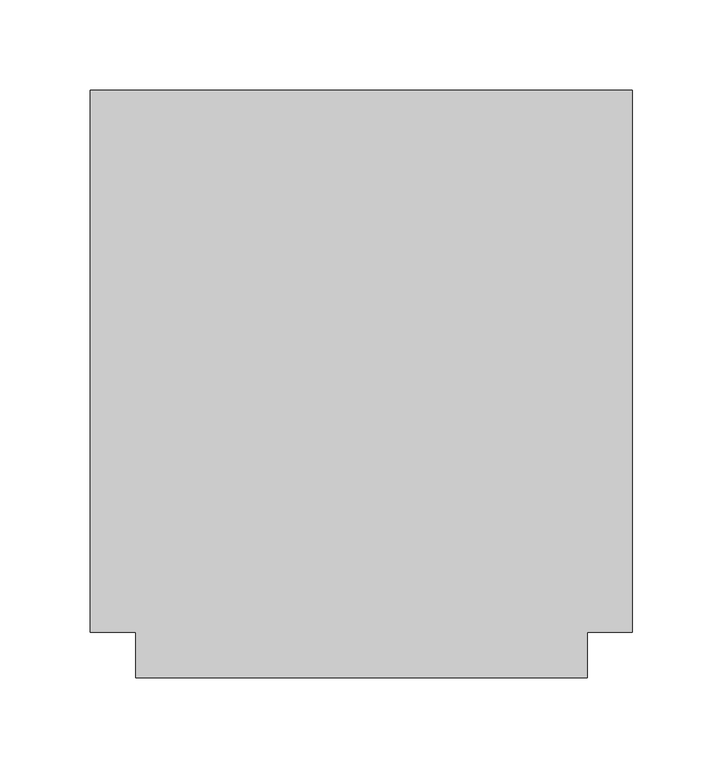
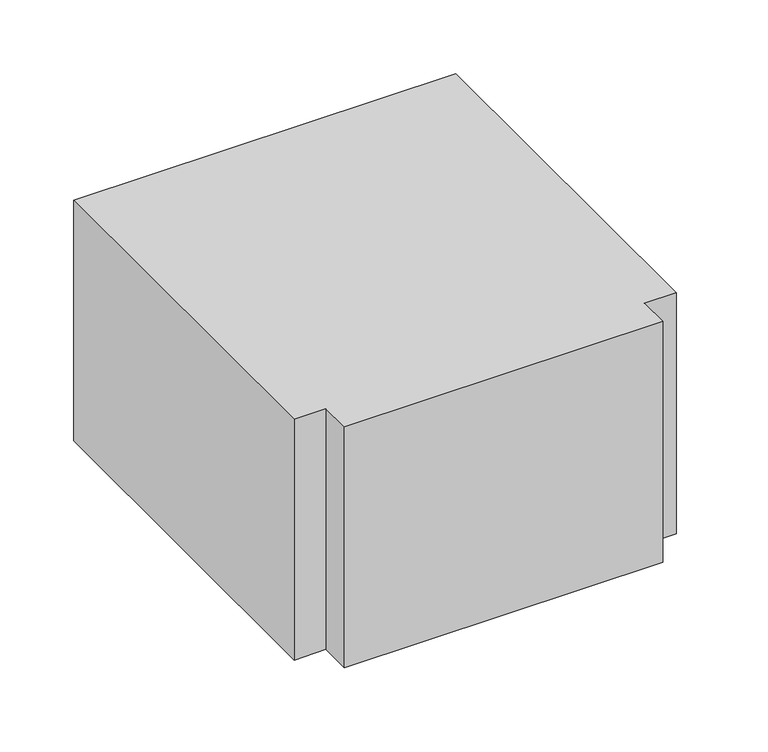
"""IFC4 building model written with IfcOpenShell, lengths in millimetres: duct fitting geometry, M_Te rectangular : Estándar."""

import ifcopenshell
import ifcopenshell.guid

model = None  # the IFC model being written
_history = None  # IfcOwnerHistory: only IFC2X3 demands one
_inside = {}  # id of a spatial element -> (the spatial element, [elements in it])
_under = {}  # id of a project, library or spatial element -> (it, [spatial elements below it])
_declared = {}  # id of a project -> (the project, [libraries it declares])
_typed = {}  # id of a type object -> (the type object, [elements of that type])
_made_of = {}  # id of a material, layer set ... -> (it, [elements and type objects made of it])


def new_model(schema):
    """Start an empty IFC model of exactly this schema.

    Asked for "IFC4X3", IfcOpenShell would pick the latest addendum, in which some entities
    have other attributes; the version numbers below select the first issue.
    IFC2X3 requires an IfcOwnerHistory on every rooted entity: one is made here for all.
    """
    global model, _history
    if schema == "IFC4X3":
        model = ifcopenshell.file(schema_version=(4, 3, 0, 0))
    else:
        model = ifcopenshell.file(schema=schema)
    _inside.clear()
    _under.clear()
    _declared.clear()
    _typed.clear()
    _made_of.clear()
    _history = None
    if model.schema == "IFC2X3":
        org = make("IfcOrganization", Name="unknown")
        user = make(
            "IfcPersonAndOrganization",
            ThePerson=make("IfcPerson", FamilyName="unknown"),
            TheOrganization=org,
        )
        app = make(
            "IfcApplication",
            ApplicationDeveloper=org,
            Version="unknown",
            ApplicationFullName="unknown",
            ApplicationIdentifier="unknown",
        )
        _history = make(
            "IfcOwnerHistory",
            OwningUser=user,
            OwningApplication=app,
            ChangeAction="ADDED",
            CreationDate=0,
        )
    return model


def make(cls, **values):
    """One entity of the class cls with the attributes given. An attribute that is None is left unset."""
    return model.create_entity(
        cls, **{name: value for name, value in values.items() if value is not None}
    )


def rooted(cls, **values):
    """An entity with a GlobalId (a new one), such as an element, a storey or a relation."""
    return make(cls, GlobalId=ifcopenshell.guid.new(), OwnerHistory=_history, **values)


def si_unit(unit_type, name, prefix=None):
    """IfcSIUnit, for example si_unit("LENGTHUNIT", "METRE", prefix="MILLI")."""
    return make("IfcSIUnit", UnitType=unit_type, Prefix=prefix, Name=name)


def assignment(units):
    """IfcUnitAssignment: the units of a project."""
    return None if units is None else make("IfcUnitAssignment", Units=units)


def point(xyz):
    """IfcCartesianPoint."""
    return None if xyz is None else make("IfcCartesianPoint", Coordinates=xyz)


def direction(xyz):
    """IfcDirection."""
    return None if xyz is None else make("IfcDirection", DirectionRatios=xyz)


def frame(location, z_axis=None, x_axis=None):
    """IfcAxis2Placement3D, a coordinate frame: its origin and axes. An axis left out is left unset."""
    return make(
        "IfcAxis2Placement3D",
        Location=point(location),
        Axis=direction(z_axis),
        RefDirection=direction(x_axis),
    )


def origin():
    """The frame at (0, 0, 0) with its axes left unset."""
    return frame((0.0, 0.0, 0.0))


def place(relative_to, where):
    """IfcLocalPlacement: puts the frame where relative to a parent placement (None: the world)."""
    return make(
        "IfcLocalPlacement", PlacementRelTo=relative_to, RelativePlacement=where
    )


def context(
    kind, dimensions, precision=None, world=None, true_north=None, identifier=None
):
    """IfcGeometricRepresentationContext, for example the 3D "Model" context."""
    return make(
        "IfcGeometricRepresentationContext",
        ContextIdentifier=identifier,
        ContextType=kind,
        CoordinateSpaceDimension=dimensions,
        Precision=precision,
        WorldCoordinateSystem=world,
        TrueNorth=true_north,
    )


def project(units=None, contexts=None):
    """IfcProject with its units and contexts."""
    return rooted(
        "IfcProject",
        Name="project",
        RepresentationContexts=contexts,
        UnitsInContext=assignment(units),
    )


def spatial(cls, under=None, at=None, **own):
    """A site, building, storey or space (cls), placed at a placement, below another one or the project."""
    s = rooted(cls, ObjectPlacement=at, **own)
    if under is not None:
        _under.setdefault(under.id(), (under, []))[1].append(s)
    return s


def polyline(points):
    """IfcPolyline through the points."""
    return make("IfcPolyline", Points=[point(p) for p in points])


def outline(outer, holes=None, kind="AREA"):
    """IfcArbitraryClosedProfileDef: a profile drawn as a closed curve; with holes, ...WithVoids."""
    if holes is None:
        return make("IfcArbitraryClosedProfileDef", ProfileType=kind, OuterCurve=outer)
    return make(
        "IfcArbitraryProfileDefWithVoids",
        ProfileType=kind,
        OuterCurve=outer,
        InnerCurves=holes,
    )


def extrude(swept, where, along, depth):
    """IfcExtrudedAreaSolid: the profile swept, set in the frame where, extruded along a direction by depth."""
    return make(
        "IfcExtrudedAreaSolid",
        SweptArea=swept,
        Position=where,
        ExtrudedDirection=direction(along),
        Depth=depth,
    )


def shape(context_of_items, identifier, shape_type, items):
    """IfcShapeRepresentation: the items that make up one representation, for example the "Body"."""
    return make(
        "IfcShapeRepresentation",
        ContextOfItems=context_of_items,
        RepresentationIdentifier=identifier,
        RepresentationType=shape_type,
        Items=items,
    )


def source(mapping_origin, context_of_items, identifier, shape_type, items):
    """IfcRepresentationMap: a shape defined once, which mapped items show again and again."""
    return make(
        "IfcRepresentationMap",
        MappingOrigin=mapping_origin,
        MappedRepresentation=shape(context_of_items, identifier, shape_type, items),
    )


def transform(
    local_origin,
    x_axis=None,
    y_axis=None,
    z_axis=None,
    scale=None,
    scale2=None,
    scale3=None,
    uniform=True,
):
    """IfcCartesianTransformationOperator3D, or its non-uniform kind. x_axis, y_axis, z_axis: its Axis1, 2, 3."""
    if uniform:
        return make(
            "IfcCartesianTransformationOperator3D",
            Axis1=direction(x_axis),
            Axis2=direction(y_axis),
            LocalOrigin=point(local_origin),
            Scale=scale,
            Axis3=direction(z_axis),
        )
    return make(
        "IfcCartesianTransformationOperator3DnonUniform",
        Axis1=direction(x_axis),
        Axis2=direction(y_axis),
        LocalOrigin=point(local_origin),
        Scale=scale,
        Axis3=direction(z_axis),
        Scale2=scale2,
        Scale3=scale3,
    )


def mapped(mapping_source, mapping_target):
    """IfcMappedItem: shows the shape of a source again, moved by a transform."""
    return make(
        "IfcMappedItem", MappingSource=mapping_source, MappingTarget=mapping_target
    )


def made_of(thing, what):
    """Note that an element or type object is made of a material, layer set ...; save() writes the relation."""
    if what is not None:
        _made_of.setdefault(what.id(), (what, []))[1].append(thing)
    return thing


def element(
    cls,
    number,
    at=None,
    inside=None,
    cuts=None,
    type_object=None,
    material=None,
    context=None,
    identifier="Body",
    shape_type=None,
    held_by="IfcProductDefinitionShape",
    body=None,
    shapes=None,
    **own,
):
    """One element of the class cls, such as IfcWall. Its Tag is "e" and its number.

    at: its placement. inside: the storey or other place that contains it. cuts: it is an
    opening in that element (IfcRelVoidsElement). A single representation is given by context,
    identifier, shape_type and body (its items); several are given by shapes. held_by: the class
    of the entity that holds the representations. save() writes the other relations.
    """
    e = rooted(cls, Tag="e%d" % number, ObjectPlacement=at, **own)
    if body is not None:
        shapes = [shape(context, identifier, shape_type, body)]
    if shapes is not None:
        e.Representation = make(held_by, Representations=shapes)
    if inside is not None:
        _inside.setdefault(inside.id(), (inside, []))[1].append(e)
    if cuts is not None:
        rooted(
            "IfcRelVoidsElement", RelatingBuildingElement=cuts, RelatedOpeningElement=e
        )
    if type_object is not None:
        _typed.setdefault(type_object.id(), (type_object, []))[1].append(e)
    return made_of(e, material)


def aggregate(whole, parts):
    """IfcRelAggregates: a whole, such as a stair, and the parts it consists of."""
    return rooted("IfcRelAggregates", RelatingObject=whole, RelatedObjects=parts)


def save(model, path):
    """Write the relations noted so far, then the file.

    IfcRelAggregates (storeys below a building ...), IfcRelContainedInSpatialStructure (elements
    in a storey), IfcRelDefinesByType, IfcRelAssociatesMaterial and IfcRelDeclares: one each for
    every whole, place, type object, material and project.
    """
    for whole, parts in _under.values():
        aggregate(whole, parts)
    for where, things in _inside.values():
        rooted(
            "IfcRelContainedInSpatialStructure",
            RelatedElements=things,
            RelatingStructure=where,
        )
    for kind, things in _typed.values():
        rooted("IfcRelDefinesByType", RelatedObjects=things, RelatingType=kind)
    for what, things in _made_of.values():
        rooted("IfcRelAssociatesMaterial", RelatedObjects=things, RelatingMaterial=what)
    for by, libraries in _declared.values():
        rooted("IfcRelDeclares", RelatingContext=by, RelatedDefinitions=libraries)
    model.write(path)


def duct_fitting_ca095582(model_context):
    return source(origin(), model_context, "Body", "SweptSolid", [
        extrude(outline(polyline([(-150.0, -150.0), (-150.0, 150.0), (150.0, 150.0), (150.0, -150.0), (125.0, -150.0), (125.0, -175.0), (-125.0, -175.0), (-125.0, -150.0), (-150.0, -150.0)])), frame((0.0, 0.0, -100.0), z_axis=(0.0, 0.0, 1.0), x_axis=(1.0, 0.0, 0.0)), (0.0, 0.0, 1.0), 200.0),
    ])


if __name__ == "__main__":
    model = new_model("IFC4")
    model_context = context("Model", 3, world=origin())
    ifc_project = project(units=[si_unit("LENGTHUNIT", "METRE", prefix="MILLI")], contexts=[model_context])
    site = spatial("IfcSite", under=ifc_project)
    building = spatial("IfcBuilding", under=site)
    placement = place(None, origin())
    duct_fitting_shape = duct_fitting_ca095582(model_context)
    element("IfcDuctFitting", 1, ObjectType="M_Te rectangular : Estándar", at=placement, inside=building, context=model_context, shape_type="MappedRepresentation", body=[
        mapped(duct_fitting_shape, transform((0.0, 0.0, 0.0), x_axis=(1.0, 0.0, 0.0), y_axis=(0.0, 1.0, 0.0), z_axis=(0.0, 0.0, 1.0))),
    ])
    save(model, "model.ifc")
